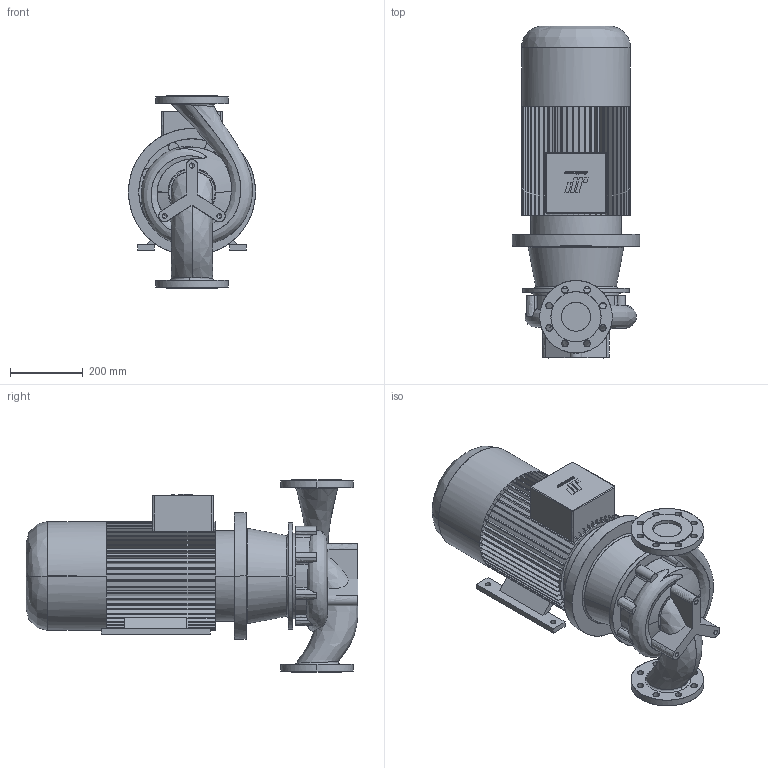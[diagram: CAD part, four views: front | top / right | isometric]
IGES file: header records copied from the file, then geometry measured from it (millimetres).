
Start section: CombiLine
Global section: file name: CLB_80-200_IEC160L_ND10.igs; native system:  By UGS Corp.; preprocessor: XPlus GENERIC/IGES 3.0; author: Stageplaats; organization: Johnson Pump Water B.V.; date: 20070717.094043; units: millimetre
Bounding box: 350 x 914 x 530 mm (x, y, z)
Surface area: 1897069.7 mm2 (no closed solid volume)
Topology: 0 solids, 0 shells, 595 faces, 3614 edges, 3608 vertices
Faces by surface type: bspline 595
